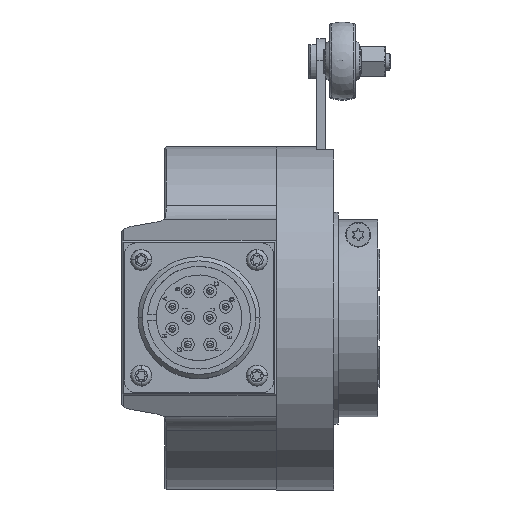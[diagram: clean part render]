
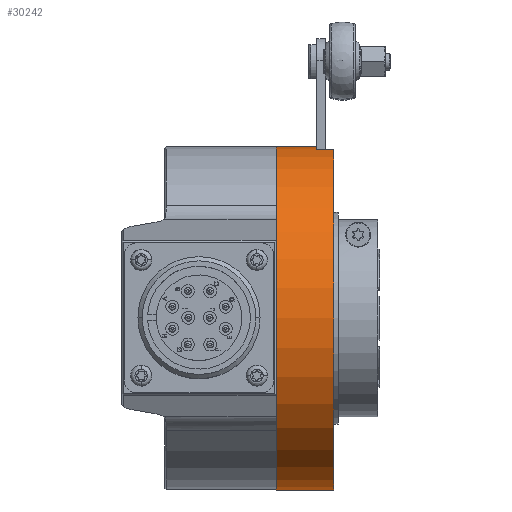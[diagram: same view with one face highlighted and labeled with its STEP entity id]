
A CAD part, top view. The second image highlights one B-rep face of the part: STEP entity #30242.
In plain terms, the highlighted cylindrical face has radius 40.075 mm (diameter 80.15 mm), a partial arc.
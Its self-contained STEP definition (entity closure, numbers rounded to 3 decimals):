
#1201 = EDGE_CURVE ( 'NONE', #15265, #4407, #12072, .T. ) ;
#2550 = VECTOR ( 'NONE', #23351, 1000. ) ;
#2697 = AXIS2_PLACEMENT_3D ( 'NONE', #12718, #27224, #3341 ) ;
#3341 = DIRECTION ( 'NONE',  ( 0., 1., 0. ) ) ;
#3511 = AXIS2_PLACEMENT_3D ( 'NONE', #19544, #29056, #26853 ) ;
#4264 = DIRECTION ( 'NONE',  ( 0., 1., 0. ) ) ;
#4407 = VERTEX_POINT ( 'NONE', #30463 ) ;
#4846 = EDGE_CURVE ( 'NONE', #12620, #4407, #12059, .T. ) ;
#5948 = VECTOR ( 'NONE', #9733, 1000. ) ;
#6446 = DIRECTION ( 'NONE',  ( -1., 0., 0. ) ) ;
#6747 = ORIENTED_EDGE ( 'NONE', *, *, #4846, .F. ) ;
#8847 = CARTESIAN_POINT ( 'NONE',  ( -12.775, 39.468, 6.95 ) ) ;
#9733 = DIRECTION ( 'NONE',  ( -1., 0., 0. ) ) ;
#10368 = CYLINDRICAL_SURFACE ( 'NONE', #2697, 40.075 ) ;
#10980 = CARTESIAN_POINT ( 'NONE',  ( 9.5, 0., 0. ) ) ;
#11056 = AXIS2_PLACEMENT_3D ( 'NONE', #19047, #28560, #21682 ) ;
#11105 = EDGE_CURVE ( 'NONE', #29547, #14885, #25396, .T. ) ;
#12057 = CARTESIAN_POINT ( 'NONE',  ( 13.5, 39.468, 6.95 ) ) ;
#12059 = CIRCLE ( 'NONE', #11056, 40.075 ) ;
#12072 = LINE ( 'NONE', #14724, #5948 ) ;
#12204 = ORIENTED_EDGE ( 'NONE', *, *, #11105, .T. ) ;
#12620 = VERTEX_POINT ( 'NONE', #14837 ) ;
#12718 = CARTESIAN_POINT ( 'NONE',  ( -12.775, 0., 0. ) ) ;
#14597 = EDGE_CURVE ( 'NONE', #17257, #12620, #23335, .T. ) ;
#14724 = CARTESIAN_POINT ( 'NONE',  ( -12.775, 40.075, 0. ) ) ;
#14837 = CARTESIAN_POINT ( 'NONE',  ( 0., -40.075, 0. ) ) ;
#14885 = VERTEX_POINT ( 'NONE', #30620 ) ;
#15265 = VERTEX_POINT ( 'NONE', #29049 ) ;
#15963 = CIRCLE ( 'NONE', #3511, 40.075 ) ;
#15998 = EDGE_CURVE ( 'NONE', #17257, #29547, #15963, .T. ) ;
#17257 = VERTEX_POINT ( 'NONE', #29023 ) ;
#19047 = CARTESIAN_POINT ( 'NONE',  ( 0., 0., 0. ) ) ;
#19544 = CARTESIAN_POINT ( 'NONE',  ( 13.5, 0., 0. ) ) ;
#20497 = FACE_OUTER_BOUND ( 'NONE', #21165, .T. ) ;
#20924 = EDGE_CURVE ( 'NONE', #14885, #15265, #28573, .T. ) ;
#21144 = CARTESIAN_POINT ( 'NONE',  ( -12.775, -40.075, 0. ) ) ;
#21165 = EDGE_LOOP ( 'NONE', ( #30299, #25890, #12204, #21728, #28503, #6747 ) ) ;
#21682 = DIRECTION ( 'NONE',  ( 0., 1., 0. ) ) ;
#21728 = ORIENTED_EDGE ( 'NONE', *, *, #20924, .T. ) ;
#23335 = LINE ( 'NONE', #21144, #25381 ) ;
#23351 = DIRECTION ( 'NONE',  ( -1., 0., 0. ) ) ;
#23804 = DIRECTION ( 'NONE',  ( -1., 0., 0. ) ) ;
#25381 = VECTOR ( 'NONE', #23804, 1000. ) ;
#25396 = LINE ( 'NONE', #8847, #2550 ) ;
#25890 = ORIENTED_EDGE ( 'NONE', *, *, #15998, .T. ) ;
#26586 = AXIS2_PLACEMENT_3D ( 'NONE', #10980, #6446, #4264 ) ;
#26853 = DIRECTION ( 'NONE',  ( 0., 1., 0. ) ) ;
#27224 = DIRECTION ( 'NONE',  ( -1., 0., 0. ) ) ;
#28503 = ORIENTED_EDGE ( 'NONE', *, *, #1201, .T. ) ;
#28560 = DIRECTION ( 'NONE',  ( -1., 0., 0. ) ) ;
#28573 = CIRCLE ( 'NONE', #26586, 40.075 ) ;
#29023 = CARTESIAN_POINT ( 'NONE',  ( 13.5, -40.075, 0. ) ) ;
#29049 = CARTESIAN_POINT ( 'NONE',  ( 9.5, 40.075, 0. ) ) ;
#29056 = DIRECTION ( 'NONE',  ( -1., 0., 0. ) ) ;
#29547 = VERTEX_POINT ( 'NONE', #12057 ) ;
#30242 = ADVANCED_FACE ( 'NONE', ( #20497 ), #10368, .T. ) ;
#30299 = ORIENTED_EDGE ( 'NONE', *, *, #14597, .F. ) ;
#30463 = CARTESIAN_POINT ( 'NONE',  ( 0., 40.075, 0. ) ) ;
#30620 = CARTESIAN_POINT ( 'NONE',  ( 9.5, 39.468, 6.95 ) ) ;
